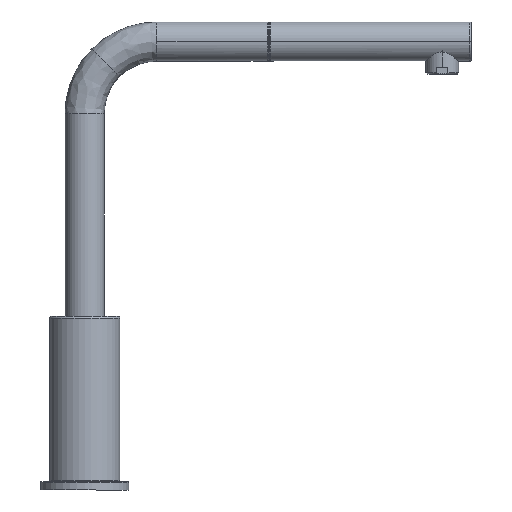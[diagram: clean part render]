
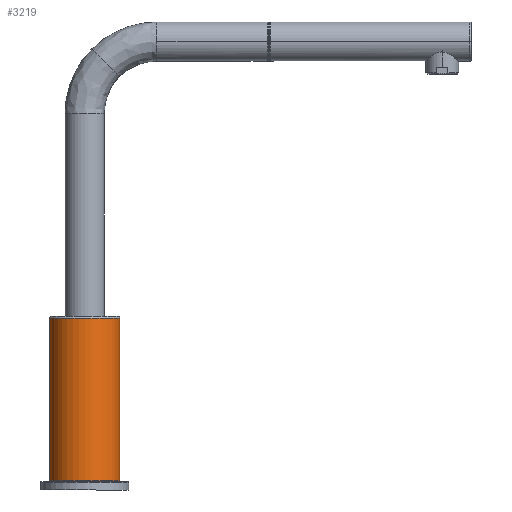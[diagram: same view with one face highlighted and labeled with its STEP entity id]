
A CAD part, left-side view. The second image highlights one B-rep face of the part: STEP entity #3219.
In plain terms, the highlighted cylindrical face has radius 21.5 mm (diameter 43 mm), a partial arc.
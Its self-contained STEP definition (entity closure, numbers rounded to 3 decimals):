
#899=TRIMMED_CURVE($,#1830,(#40269),(#40270),.T.,.CARTESIAN.);
#900=TRIMMED_CURVE($,#1831,(#40272),(#40273),.T.,.CARTESIAN.);
#1830=CIRCLE('',#17911,21.5);
#1831=CIRCLE('',#17912,21.5);
#2357=CYLINDRICAL_SURFACE('',#17791,21.5);
#3219=ADVANCED_FACE('',(#4247),#2357,.T.);
#4247=FACE_OUTER_BOUND('',#5251,.T.);
#5251=EDGE_LOOP('',(#8893,#8894,#8895,#8896));
#8893=ORIENTED_EDGE('',*,*,#11980,.T.);
#8894=ORIENTED_EDGE('',*,*,#11982,.T.);
#8895=ORIENTED_EDGE('',*,*,#11979,.F.);
#8896=ORIENTED_EDGE('',*,*,#11981,.T.);
#11979=EDGE_CURVE('',#15187,#15186,#899,.T.);
#11980=EDGE_CURVE('',#15188,#15189,#900,.T.);
#11981=EDGE_CURVE('',#15187,#15188,#13801,.T.);
#11982=EDGE_CURVE('',#15189,#15186,#13802,.T.);
#13801=B_SPLINE_CURVE_WITH_KNOTS('',1,(#40274,#40275),.UNSPECIFIED.,.F.,
 .F.,(2,2),(-99.2,0.),.UNSPECIFIED.);
#13802=B_SPLINE_CURVE_WITH_KNOTS('',1,(#40276,#40277),.UNSPECIFIED.,.F.,
 .F.,(2,2),(-99.2,0.),.UNSPECIFIED.);
#15186=VERTEX_POINT('',#39537);
#15187=VERTEX_POINT('',#39538);
#15188=VERTEX_POINT('',#39539);
#15189=VERTEX_POINT('',#39540);
#17791=AXIS2_PLACEMENT_3D('',#37408,#19833,$);
#17911=AXIS2_PLACEMENT_3D($,#40268,#20049,#20050);
#17912=AXIS2_PLACEMENT_3D($,#40271,#20051,#20052);
#19833=DIRECTION('',(0.,0.,-1.));
#20049=DIRECTION('',(0.,0.,1.));
#20050=DIRECTION('',(0.,1.,0.));
#20051=DIRECTION('',(0.,0.,1.));
#20052=DIRECTION('',(0.,1.,0.));
#37408=CARTESIAN_POINT('',(0.,-13.926,58.728));
#39537=CARTESIAN_POINT('',(0.,-35.426,108.328));
#39538=CARTESIAN_POINT('',(0.,7.574,108.328));
#39539=CARTESIAN_POINT('',(0.,7.574,9.128));
#39540=CARTESIAN_POINT('',(0.,-35.426,9.128));
#40268=CARTESIAN_POINT('',(0.,-13.926,108.328));
#40269=CARTESIAN_POINT('',(0.,7.574,108.328));
#40270=CARTESIAN_POINT('',(0.,-35.426,108.328));
#40271=CARTESIAN_POINT('',(0.,-13.926,9.128));
#40272=CARTESIAN_POINT('',(0.,7.574,9.128));
#40273=CARTESIAN_POINT('',(0.,-35.426,9.128));
#40274=CARTESIAN_POINT('',(0.,7.574,108.328));
#40275=CARTESIAN_POINT('',(0.,7.574,9.128));
#40276=CARTESIAN_POINT('',(0.,-35.426,9.128));
#40277=CARTESIAN_POINT('',(0.,-35.426,108.328));
